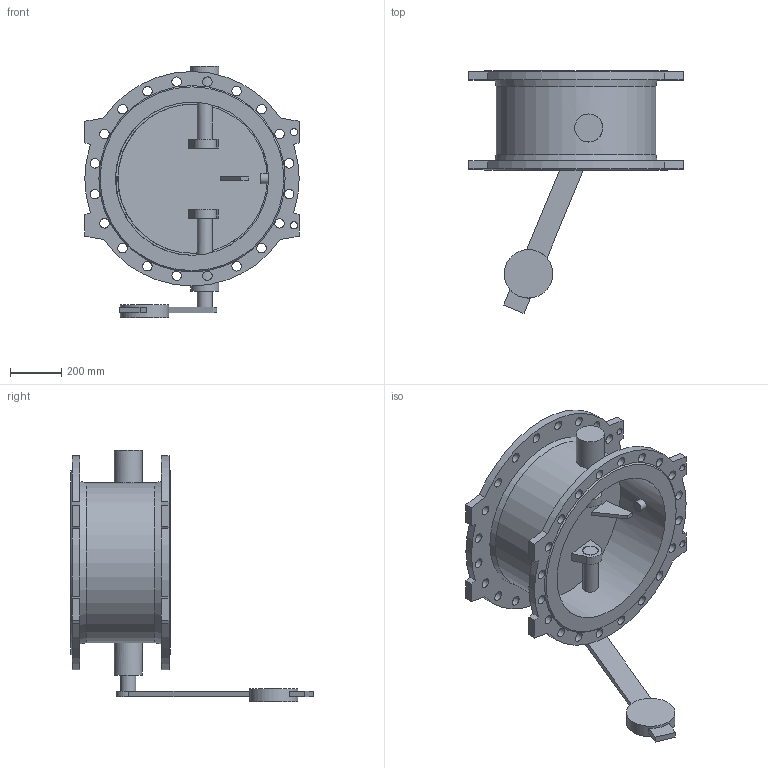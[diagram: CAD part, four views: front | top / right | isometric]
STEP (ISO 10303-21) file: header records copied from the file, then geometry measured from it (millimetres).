
FILE_DESCRIPTION(('STEP AP203'), '1');
FILE_NAME('Êëàïàí 015F.PV DN600 PN16 ñ ïðîòèâîâåñîì', '', ('UNSPECIFIED'), ('UNSPECIFIED'), 'ASCON STEP Converter 1.6', 'ASCON Math Kernel', '');
FILE_SCHEMA(('CONFIG_CONTROL_DESIGN'));
Length unit declared in the file: millimetre
Bounding box: 840 x 950 x 984 mm (x, y, z)
Volume: 35806404.8 mm3; surface area: 3757468.9 mm2
Topology: 1 solids, 1 shells, 136 faces, 351 edges, 233 vertices
Faces by surface type: cylinder 66, plane 63, cone 4, extrusion 2, bspline 1
Full cylindrical faces by diameter (mm): 28 x4, 37 x40, 40 x1, 60 x3, 62 x2, 110 x2, 190 x1, 600 x1, 626 x1
Entity records: 6098 total; most frequent: CARTESIAN_POINT 1609, DIRECTION 678, ORIENTED_EDGE 572, EDGE_LOOP 310, EDGE_CURVE 286, AXIS2_PLACEMENT_3D 273, VERTEX_POINT 232, FACE_BOUND 189
